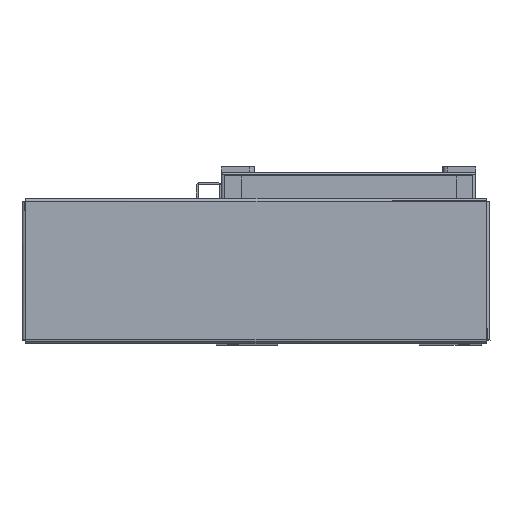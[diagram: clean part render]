
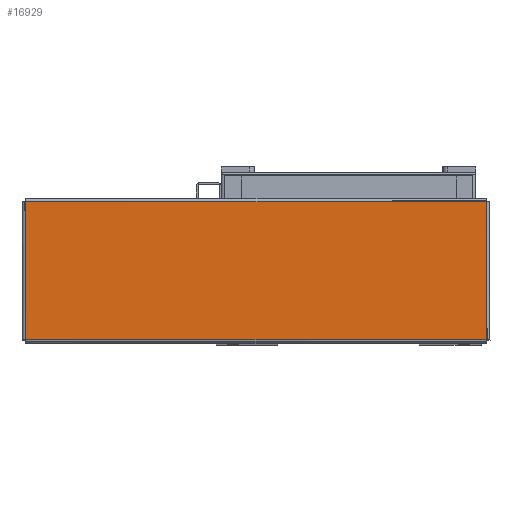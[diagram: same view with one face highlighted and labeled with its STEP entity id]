
A CAD part, top view. The second image highlights one B-rep face of the part: STEP entity #16929.
In plain terms, the highlighted planar face has unit normal (0, 0, 1) as drawn and (0, -1, 0) by its records, which use the part's own axes.
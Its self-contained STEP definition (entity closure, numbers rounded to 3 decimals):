
#1485 = EDGE_LOOP ( 'NONE', ( #4162, #4189, #4203, #4156 ) ) ;
#2911 = VERTEX_POINT ( 'NONE', #10195 ) ;
#2912 = VERTEX_POINT ( 'NONE', #10165 ) ;
#2923 = VERTEX_POINT ( 'NONE', #10133 ) ;
#2972 = VERTEX_POINT ( 'NONE', #10198 ) ;
#4156 = ORIENTED_EDGE ( 'NONE', *, *, #39199, .T. ) ;
#4162 = ORIENTED_EDGE ( 'NONE', *, *, #39179, .T. ) ;
#4189 = ORIENTED_EDGE ( 'NONE', *, *, #39167, .T. ) ;
#4203 = ORIENTED_EDGE ( 'NONE', *, *, #39181, .T. ) ;
#7910 = DIRECTION ( 'NONE',  ( 0., 0., 1. ) ) ;
#7922 = DIRECTION ( 'NONE',  ( 0., 1., 0. ) ) ;
#7942 = PLANE ( 'NONE',  #15930 ) ;
#7998 = CARTESIAN_POINT ( 'NONE',  ( 0., -1.5, 0. ) ) ;
#10133 = CARTESIAN_POINT ( 'NONE',  ( -139.263, -1.5, -41.763 ) ) ;
#10165 = CARTESIAN_POINT ( 'NONE',  ( -139.263, -1.5, 41.763 ) ) ;
#10195 = CARTESIAN_POINT ( 'NONE',  ( 139.263, -1.5, -41.763 ) ) ;
#10198 = CARTESIAN_POINT ( 'NONE',  ( 139.263, -1.5, 41.763 ) ) ;
#13927 = FACE_OUTER_BOUND ( 'NONE', #1485, .T. ) ;
#15930 = AXIS2_PLACEMENT_3D ( 'NONE', #7998, #7922, #7910 ) ;
#16929 = ADVANCED_FACE ( 'NONE', ( #13927 ), #7942, .F. ) ;
#31366 = DIRECTION ( 'NONE',  ( -1., 0., 0. ) ) ;
#31389 = CARTESIAN_POINT ( 'NONE',  ( 139.293, -1.5, 41.763 ) ) ;
#31429 = CARTESIAN_POINT ( 'NONE',  ( 139.263, -1.5, -41.793 ) ) ;
#31456 = DIRECTION ( 'NONE',  ( 1., 0., 0. ) ) ;
#31467 = DIRECTION ( 'NONE',  ( 0., 0., 1. ) ) ;
#31482 = DIRECTION ( 'NONE',  ( 0., 0., -1. ) ) ;
#31500 = CARTESIAN_POINT ( 'NONE',  ( -139.263, -1.5, 41.793 ) ) ;
#31501 = CARTESIAN_POINT ( 'NONE',  ( -139.293, -1.5, -41.763 ) ) ;
#33271 = LINE ( 'NONE', #31389, #33285 ) ;
#33277 = VECTOR ( 'NONE', #31467, 1000. ) ;
#33285 = VECTOR ( 'NONE', #31366, 1000. ) ;
#33291 = VECTOR ( 'NONE', #31456, 1000. ) ;
#33295 = LINE ( 'NONE', #31501, #33291 ) ;
#33305 = LINE ( 'NONE', #31500, #33373 ) ;
#33321 = LINE ( 'NONE', #31429, #33277 ) ;
#33373 = VECTOR ( 'NONE', #31482, 1000. ) ;
#39167 = EDGE_CURVE ( 'NONE', #2972, #2912, #33271, .T. ) ;
#39179 = EDGE_CURVE ( 'NONE', #2911, #2972, #33321, .T. ) ;
#39181 = EDGE_CURVE ( 'NONE', #2912, #2923, #33305, .T. ) ;
#39199 = EDGE_CURVE ( 'NONE', #2923, #2911, #33295, .T. ) ;
